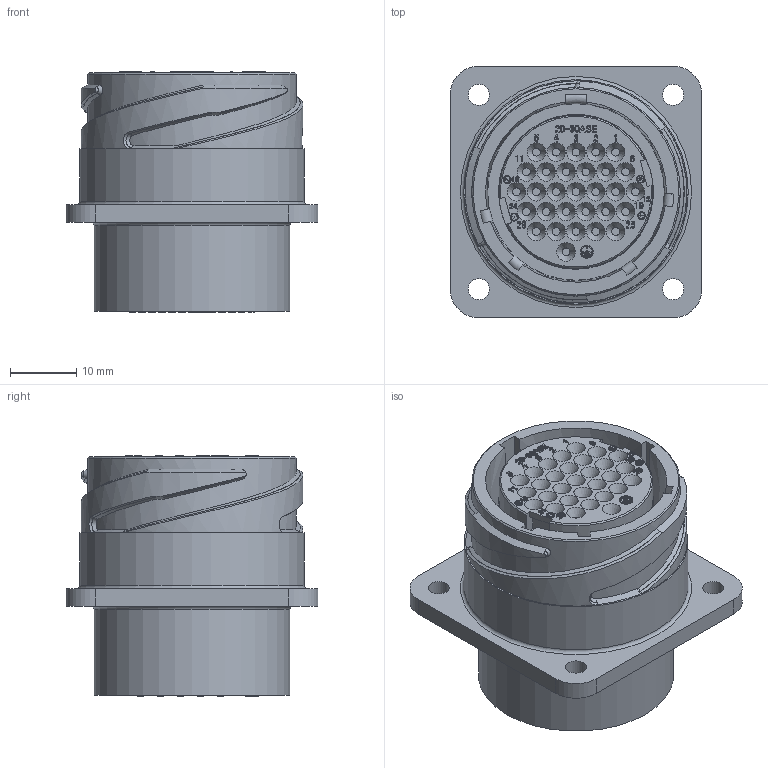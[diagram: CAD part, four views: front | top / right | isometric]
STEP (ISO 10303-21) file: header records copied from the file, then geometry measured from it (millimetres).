
FILE_DESCRIPTION (( 'STEP AP203' ), '1' );
FILE_NAME ('CE01-2A20-30ASC-D0(R1).STEP', '2021-05-14T02:51:05', ( '' ), ( '' ), 'SwSTEP 2.0', 'SolidWorks 2018', '' );
FILE_SCHEMA (( 'CONFIG_CONTROL_DESIGN' ));
Length unit declared in the file: millimetre
Products named in the file (1): CE01-2A20-30ASC-D0(R1)
Bounding box: 38.1 x 38.1 x 36.4 mm (x, y, z)
Volume: 26292 mm3; surface area: 11383.5 mm2
Topology: 1 solids, 1 shells, 1850 faces, 4934 edges, 3279 vertices
Faces by surface type: bspline 955, plane 729, cylinder 114, cone 48, torus 4
Full cylindrical faces by diameter (mm): 1 x3, 1.2 x34, 1.95 x2, 2.4 x29, 3.2 x4, 23.4 x1, 29.57 x1, 29.77 x1, 31.55 x1, 33.95 x1
Entity records: 93917 total; most frequent: CARTESIAN_POINT 55023, ORIENTED_EDGE 9504, DIRECTION 4881, EDGE_CURVE 4752, VERTEX_POINT 3211, LINE 2497, VECTOR 2497, EDGE_LOOP 2163
